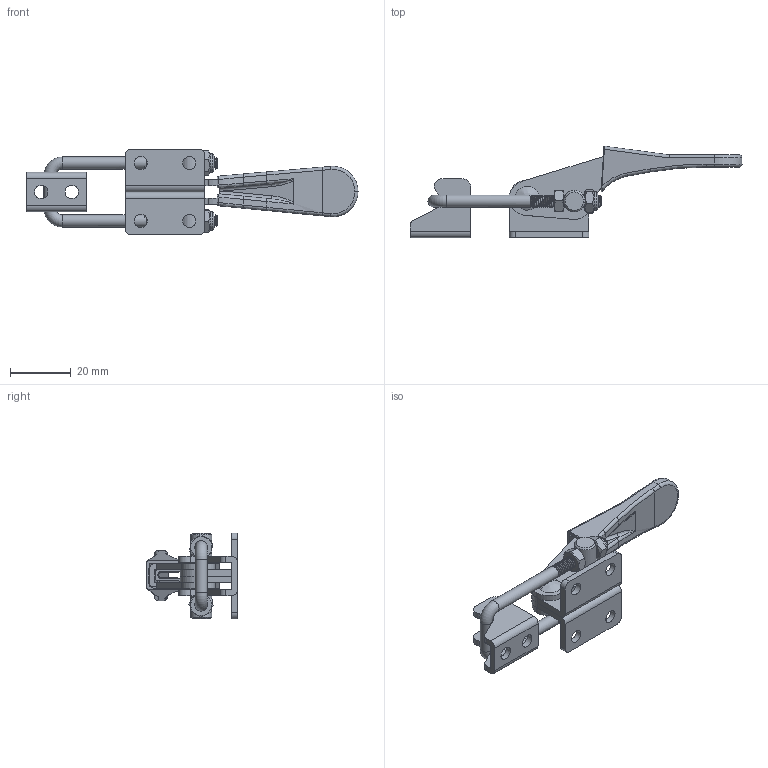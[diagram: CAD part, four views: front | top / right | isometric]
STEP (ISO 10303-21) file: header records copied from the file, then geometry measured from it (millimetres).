
FILE_DESCRIPTION(/* description */ ('STEP AP203'),/* implementation_level */ '2;1');
FILE_NAME(/* name */ 'D:\Vault_2016\Projekty\Clamptek\STRONA\Latch type clamp\CH-40323\CH-40323.stp',/* time_stamp */ '2019-01-10T16:11:35+01:00',/* author */ ('Łukasz'),/* organization */ ('·L?¤¤?'),/* preprocessor_version */ 'ST-DEVELOPER v17.2',/* originating_system */ 'Autodesk Inventor 2019',/* authorisation */ '');
FILE_SCHEMA (('AUTOMOTIVE_DESIGN { 1 0 10303 214 3 1 1 }'));
Length unit declared in the file: millimetre
Products named in the file (11): CH-40323; 04___; 06___; M4___; 02___; 05___; M4_______; 00___; _____; àÅ_1___; 01___
Assembly tree (12 placements, depth 3):
  CH-40323
    M4___  x2
    04___
    06___
    M4_______  x2
    02___
    05___
    00___
      _____
      àÅ_1___
    01___
Bounding box: 108.94 x 30.03 x 28.2 mm (x, y, z)
Volume: 11242.2 mm3; surface area: 15515.1 mm2
Topology: 12 solids, 12 shells, 683 faces, 1908 edges, 1273 vertices
Faces by surface type: plane 258, bspline 218, cylinder 178, cone 23, torus 6
Full cylindrical faces by diameter (mm): 0.545 x1, 0.611 x1, 3.2 x12, 3.328 x1, 4 x67, 4.2 x2, 4.26 x2, 4.3 x2, 4.4 x2, 4.8 x5, 6 x2, 7 x3
Entity records: 67395 total; most frequent: CARTESIAN_POINT 52027, ORIENTED_EDGE 3592, DIRECTION 2334, EDGE_CURVE 1796, VERTEX_POINT 1201, LINE 908, VECTOR 908, AXIS2_PLACEMENT_3D 713
